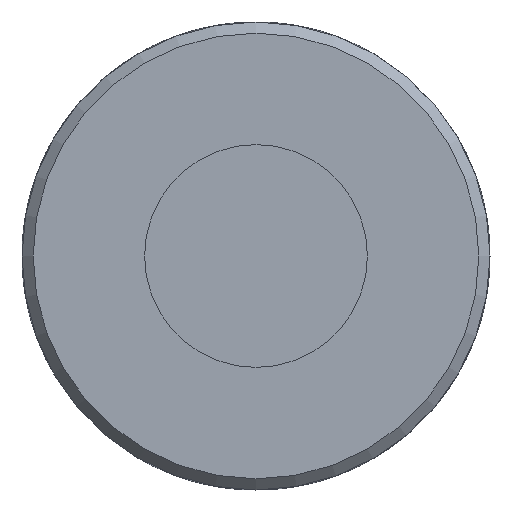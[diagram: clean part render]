
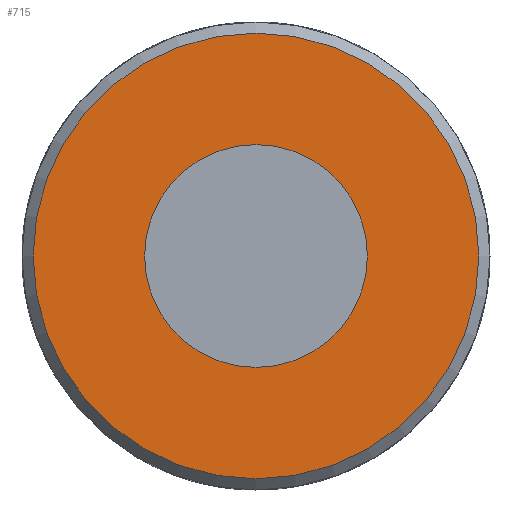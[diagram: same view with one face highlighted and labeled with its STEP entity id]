
A CAD part, front view. The second image highlights one B-rep face of the part: STEP entity #715.
In plain terms, the highlighted planar face has unit normal (0, -1, 0).
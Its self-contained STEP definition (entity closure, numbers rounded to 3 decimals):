
#131=PLANE('',#780);
#157=FACE_BOUND('',#245,.T.);
#182=FACE_OUTER_BOUND('',#244,.T.);
#244=EDGE_LOOP('',(#556));
#245=EDGE_LOOP('',(#557));
#293=CIRCLE('',#775,10.);
#295=CIRCLE('',#778,20.);
#338=VERTEX_POINT('',#1104);
#340=VERTEX_POINT('',#1109);
#412=EDGE_CURVE('',#338,#338,#293,.T.);
#414=EDGE_CURVE('',#340,#340,#295,.T.);
#556=ORIENTED_EDGE('',*,*,#414,.F.);
#557=ORIENTED_EDGE('',*,*,#412,.T.);
#715=ADVANCED_FACE('',(#182,#157),#131,.F.);
#775=AXIS2_PLACEMENT_3D('',#1105,#905,#906);
#778=AXIS2_PLACEMENT_3D('',#1110,#911,#912);
#780=AXIS2_PLACEMENT_3D('',#1334,#919,#920);
#905=DIRECTION('center_axis',(0.,1.,0.));
#906=DIRECTION('ref_axis',(-1.,0.,0.));
#911=DIRECTION('center_axis',(0.,1.,0.));
#912=DIRECTION('ref_axis',(1.,0.,0.));
#919=DIRECTION('center_axis',(0.,1.,0.));
#920=DIRECTION('ref_axis',(0.,0.,1.));
#1104=CARTESIAN_POINT('',(10.,-51.,0.));
#1105=CARTESIAN_POINT('Origin',(0.,-51.,0.));
#1109=CARTESIAN_POINT('',(-20.,-51.,0.));
#1110=CARTESIAN_POINT('Origin',(0.,-51.,0.));
#1334=CARTESIAN_POINT('Origin',(0.,-51.,0.));
